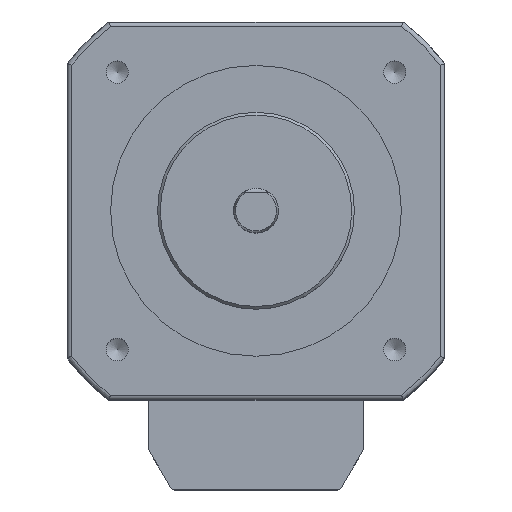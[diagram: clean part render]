
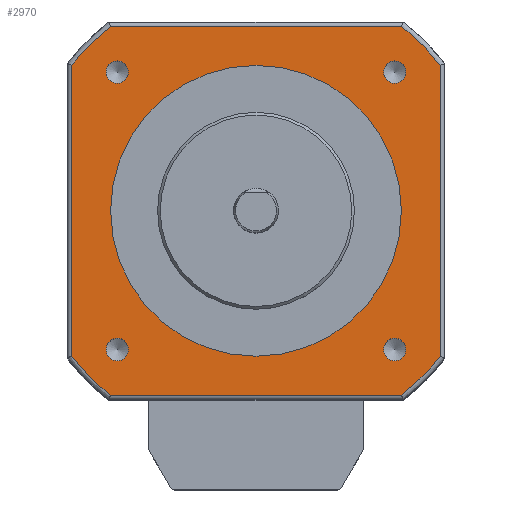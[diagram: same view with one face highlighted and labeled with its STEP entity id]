
A CAD part, top view. The second image highlights one B-rep face of the part: STEP entity #2970.
In plain terms, the highlighted planar face has unit normal (0, 0, 1).
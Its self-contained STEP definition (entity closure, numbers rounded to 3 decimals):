
#2243=CARTESIAN_POINT('',(0.,16.25,60.5));
#2244=VERTEX_POINT('',#2243);
#2245=CARTESIAN_POINT('',(0.,0.,60.5));
#2246=DIRECTION('',(0.,1.,-0.));
#2247=DIRECTION('',(0.,0.,1.));
#2248=AXIS2_PLACEMENT_3D('',#2245,#2247,#2246);
#2249=CIRCLE('',#2248,16.25);
#2250=EDGE_CURVE('',#2244,#2244,#2249,.T.);
#2510=CARTESIAN_POINT('',(16.268,-20.601,60.5));
#2511=VERTEX_POINT('',#2510);
#2519=CARTESIAN_POINT('',(-16.269,-20.6,60.5));
#2520=VERTEX_POINT('',#2519);
#2521=CARTESIAN_POINT('',(-16.269,-20.6,60.5));
#2522=DIRECTION('',(1.,0.,0.));
#2523=VECTOR('',#2522,32.537);
#2524=LINE('',#2521,#2523);
#2525=EDGE_CURVE('',#2520,#2511,#2524,.T.);
#2583=CARTESIAN_POINT('',(20.6,-16.269,60.5));
#2584=VERTEX_POINT('',#2583);
#2592=CARTESIAN_POINT('',(16.268,-20.601,60.5));
#2593=CARTESIAN_POINT('',(16.342,-20.542,60.5));
#2594=CARTESIAN_POINT('',(16.695,-20.261,60.5));
#2595=CARTESIAN_POINT('',(17.311,-19.738,60.5));
#2596=CARTESIAN_POINT('',(17.979,-19.131,60.5));
#2597=CARTESIAN_POINT('',(18.563,-18.563,60.5));
#2598=CARTESIAN_POINT('',(19.131,-17.979,60.5));
#2599=CARTESIAN_POINT('',(19.738,-17.311,60.5));
#2600=CARTESIAN_POINT('',(20.261,-16.695,60.5));
#2601=CARTESIAN_POINT('',(20.542,-16.342,60.5));
#2602=CARTESIAN_POINT('',(20.6,-16.269,60.5));
#2603=B_SPLINE_CURVE_WITH_KNOTS('',2,(#2592,#2593,#2594,#2595,#2596,#2597,#2598,#2599,#2600,#2601,#2602),.UNSPECIFIED.,.F.,.U.,(3,1,1,1,1,1,1,1,1,3),(0.105,0.129,0.221,0.337,0.453,0.547,0.663,0.779,0.871,0.895),.UNSPECIFIED.);
#2604=EDGE_CURVE('',#2511,#2584,#2603,.T.);
#2616=CARTESIAN_POINT('',(20.601,16.267,60.5));
#2617=VERTEX_POINT('',#2616);
#2625=CARTESIAN_POINT('',(20.6,-16.269,60.5));
#2626=DIRECTION('',(0.,1.,0.));
#2627=VECTOR('',#2626,32.536);
#2628=LINE('',#2625,#2627);
#2629=EDGE_CURVE('',#2584,#2617,#2628,.T.);
#2685=CARTESIAN_POINT('',(16.269,20.6,60.5));
#2686=VERTEX_POINT('',#2685);
#2694=CARTESIAN_POINT('',(20.602,16.267,60.5));
#2695=CARTESIAN_POINT('',(20.543,16.341,60.5));
#2696=CARTESIAN_POINT('',(20.261,16.695,60.5));
#2697=CARTESIAN_POINT('',(19.738,17.311,60.5));
#2698=CARTESIAN_POINT('',(19.131,17.979,60.5));
#2699=CARTESIAN_POINT('',(18.563,18.563,60.5));
#2700=CARTESIAN_POINT('',(17.979,19.131,60.5));
#2701=CARTESIAN_POINT('',(17.311,19.738,60.5));
#2702=CARTESIAN_POINT('',(16.695,20.261,60.5));
#2703=CARTESIAN_POINT('',(16.342,20.542,60.5));
#2704=CARTESIAN_POINT('',(16.269,20.6,60.5));
#2705=B_SPLINE_CURVE_WITH_KNOTS('',2,(#2694,#2695,#2696,#2697,#2698,#2699,#2700,#2701,#2702,#2703,#2704),.UNSPECIFIED.,.F.,.U.,(3,1,1,1,1,1,1,1,1,3),(0.104,0.129,0.221,0.337,0.453,0.547,0.663,0.779,0.871,0.895),.UNSPECIFIED.);
#2706=EDGE_CURVE('',#2617,#2686,#2705,.T.);
#2718=CARTESIAN_POINT('',(-16.267,20.601,60.5));
#2719=VERTEX_POINT('',#2718);
#2727=CARTESIAN_POINT('',(16.269,20.6,60.5));
#2728=DIRECTION('',(-1.,0.,0.));
#2729=VECTOR('',#2728,32.536);
#2730=LINE('',#2727,#2729);
#2731=EDGE_CURVE('',#2686,#2719,#2730,.T.);
#2787=CARTESIAN_POINT('',(-20.6,16.269,60.5));
#2788=VERTEX_POINT('',#2787);
#2796=CARTESIAN_POINT('',(-16.267,20.602,60.5));
#2797=CARTESIAN_POINT('',(-16.341,20.543,60.5));
#2798=CARTESIAN_POINT('',(-16.695,20.261,60.5));
#2799=CARTESIAN_POINT('',(-17.311,19.738,60.5));
#2800=CARTESIAN_POINT('',(-17.979,19.131,60.5));
#2801=CARTESIAN_POINT('',(-18.563,18.563,60.5));
#2802=CARTESIAN_POINT('',(-19.131,17.979,60.5));
#2803=CARTESIAN_POINT('',(-19.738,17.311,60.5));
#2804=CARTESIAN_POINT('',(-20.261,16.695,60.5));
#2805=CARTESIAN_POINT('',(-20.542,16.342,60.5));
#2806=CARTESIAN_POINT('',(-20.6,16.269,60.5));
#2807=B_SPLINE_CURVE_WITH_KNOTS('',2,(#2796,#2797,#2798,#2799,#2800,#2801,#2802,#2803,#2804,#2805,#2806),.UNSPECIFIED.,.F.,.U.,(3,1,1,1,1,1,1,1,1,3),(0.104,0.129,0.221,0.337,0.453,0.547,0.663,0.779,0.871,0.895),.UNSPECIFIED.);
#2808=EDGE_CURVE('',#2719,#2788,#2807,.T.);
#2820=CARTESIAN_POINT('',(-20.601,-16.267,60.5));
#2821=VERTEX_POINT('',#2820);
#2829=CARTESIAN_POINT('',(-20.6,16.269,60.5));
#2830=DIRECTION('',(0.,-1.,0.));
#2831=VECTOR('',#2830,32.536);
#2832=LINE('',#2829,#2831);
#2833=EDGE_CURVE('',#2788,#2821,#2832,.T.);
#2890=CARTESIAN_POINT('',(-20.602,-16.267,60.5));
#2891=CARTESIAN_POINT('',(-20.543,-16.341,60.5));
#2892=CARTESIAN_POINT('',(-20.261,-16.695,60.5));
#2893=CARTESIAN_POINT('',(-19.738,-17.311,60.5));
#2894=CARTESIAN_POINT('',(-19.131,-17.979,60.5));
#2895=CARTESIAN_POINT('',(-18.563,-18.563,60.5));
#2896=CARTESIAN_POINT('',(-17.979,-19.131,60.5));
#2897=CARTESIAN_POINT('',(-17.311,-19.738,60.5));
#2898=CARTESIAN_POINT('',(-16.695,-20.261,60.5));
#2899=CARTESIAN_POINT('',(-16.342,-20.542,60.5));
#2900=CARTESIAN_POINT('',(-16.269,-20.6,60.5));
#2901=B_SPLINE_CURVE_WITH_KNOTS('',2,(#2890,#2891,#2892,#2893,#2894,#2895,#2896,#2897,#2898,#2899,#2900),.UNSPECIFIED.,.F.,.U.,(3,1,1,1,1,1,1,1,1,3),(0.104,0.129,0.221,0.337,0.453,0.547,0.663,0.779,0.871,0.895),.UNSPECIFIED.);
#2902=EDGE_CURVE('',#2821,#2520,#2901,.T.);
#2908=CARTESIAN_POINT('',(0.,-0.649,60.5));
#2909=DIRECTION('',(1.,0.,0.));
#2910=DIRECTION('',(0.,0.,1.));
#2911=AXIS2_PLACEMENT_3D('',#2908,#2910,#2909);
#2912=PLANE('',#2911);
#2913=ORIENTED_EDGE('',*,*,#2525,.T.);
#2914=ORIENTED_EDGE('',*,*,#2604,.T.);
#2915=ORIENTED_EDGE('',*,*,#2629,.T.);
#2916=ORIENTED_EDGE('',*,*,#2706,.T.);
#2917=ORIENTED_EDGE('',*,*,#2731,.T.);
#2918=ORIENTED_EDGE('',*,*,#2808,.T.);
#2919=ORIENTED_EDGE('',*,*,#2833,.T.);
#2920=ORIENTED_EDGE('',*,*,#2902,.T.);
#2921=EDGE_LOOP('',(#2913,#2914,#2915,#2916,#2917,#2918,#2919,#2920));
#2922=FACE_OUTER_BOUND('',#2921,.T.);
#2923=ORIENTED_EDGE('',*,*,#2250,.F.);
#2924=EDGE_LOOP('',(#2923));
#2925=FACE_BOUND('',#2924,.T.);
#2926=CARTESIAN_POINT('',(16.75,-15.5,60.5));
#2927=VERTEX_POINT('',#2926);
#2928=CARTESIAN_POINT('',(15.5,-15.5,60.5));
#2929=DIRECTION('',(1.,0.,-0.));
#2930=DIRECTION('',(0.,-0.,-1.));
#2931=AXIS2_PLACEMENT_3D('',#2928,#2930,#2929);
#2932=CIRCLE('',#2931,1.25);
#2933=EDGE_CURVE('',#2927,#2927,#2932,.T.);
#2934=ORIENTED_EDGE('E236',*,*,#2933,.T.);
#2935=EDGE_LOOP('',(#2934));
#2936=FACE_BOUND('',#2935,.T.);
#2937=CARTESIAN_POINT('',(-14.25,-15.5,60.5));
#2938=VERTEX_POINT('',#2937);
#2939=CARTESIAN_POINT('',(-15.5,-15.5,60.5));
#2940=DIRECTION('',(1.,0.,-0.));
#2941=DIRECTION('',(0.,-0.,-1.));
#2942=AXIS2_PLACEMENT_3D('',#2939,#2941,#2940);
#2943=CIRCLE('',#2942,1.25);
#2944=EDGE_CURVE('',#2938,#2938,#2943,.T.);
#2945=ORIENTED_EDGE('E243',*,*,#2944,.T.);
#2946=EDGE_LOOP('',(#2945));
#2947=FACE_BOUND('',#2946,.T.);
#2948=CARTESIAN_POINT('',(16.75,15.5,60.5));
#2949=VERTEX_POINT('',#2948);
#2950=CARTESIAN_POINT('',(15.5,15.5,60.5));
#2951=DIRECTION('',(1.,0.,-0.));
#2952=DIRECTION('',(0.,-0.,-1.));
#2953=AXIS2_PLACEMENT_3D('',#2950,#2952,#2951);
#2954=CIRCLE('',#2953,1.25);
#2955=EDGE_CURVE('',#2949,#2949,#2954,.T.);
#2956=ORIENTED_EDGE('E229',*,*,#2955,.T.);
#2957=EDGE_LOOP('',(#2956));
#2958=FACE_BOUND('',#2957,.T.);
#2959=CARTESIAN_POINT('',(-14.25,15.5,60.5));
#2960=VERTEX_POINT('',#2959);
#2961=CARTESIAN_POINT('',(-15.5,15.5,60.5));
#2962=DIRECTION('',(1.,0.,-0.));
#2963=DIRECTION('',(0.,-0.,-1.));
#2964=AXIS2_PLACEMENT_3D('',#2961,#2963,#2962);
#2965=CIRCLE('',#2964,1.25);
#2966=EDGE_CURVE('',#2960,#2960,#2965,.T.);
#2967=ORIENTED_EDGE('E222',*,*,#2966,.T.);
#2968=EDGE_LOOP('',(#2967));
#2969=FACE_BOUND('',#2968,.T.);
#2970=ADVANCED_FACE('F50',(#2922,#2925,#2936,#2947,#2958,#2969),#2912,.T.);
